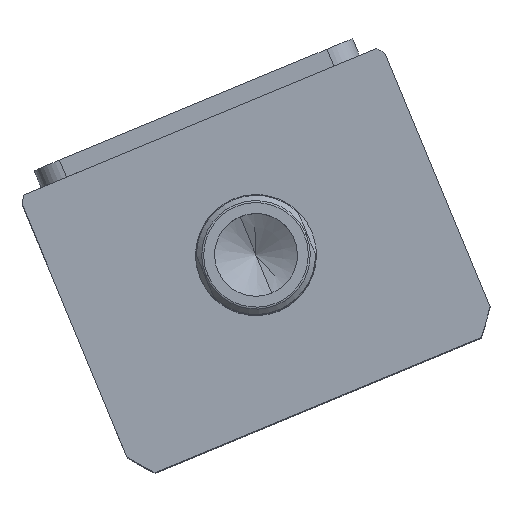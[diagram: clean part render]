
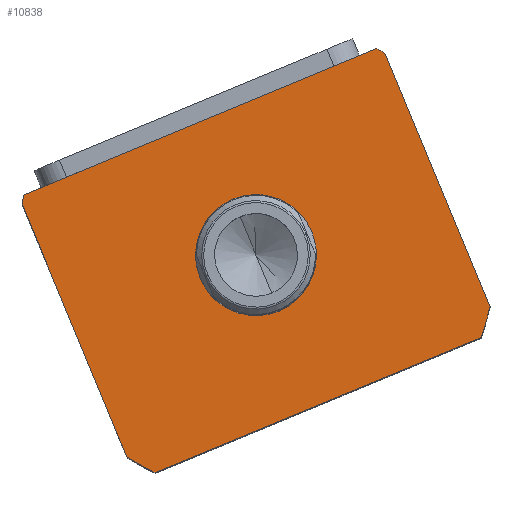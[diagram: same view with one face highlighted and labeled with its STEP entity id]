
A CAD part, top view. The second image highlights one B-rep face of the part: STEP entity #10838.
In plain terms, the highlighted planar face has unit normal (0, 0, 1) as drawn and (0, 0, -1) by its records, which use the part's own axes.
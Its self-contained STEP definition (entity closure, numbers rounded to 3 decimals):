
#216 = CARTESIAN_POINT ( 'NONE',  ( 0., 2.5, 0. ) ) ;
#275 = CARTESIAN_POINT ( 'NONE',  ( -57., 42.265, 0. ) ) ;
#530 = EDGE_CURVE ( 'NONE', #16409, #3230, #3903, .T. ) ;
#600 = DIRECTION ( 'NONE',  ( 1., 0., 0. ) ) ;
#868 = DIRECTION ( 'NONE',  ( 1., 0., 0. ) ) ;
#869 = CARTESIAN_POINT ( 'NONE',  ( 0., 2.5, 0. ) ) ;
#1036 = EDGE_CURVE ( 'NONE', #6912, #4283, #5954, .T. ) ;
#1552 = LINE ( 'NONE', #15355, #16697 ) ;
#1745 = ORIENTED_EDGE ( 'NONE', *, *, #7403, .F. ) ;
#1816 = CIRCLE ( 'NONE', #11437, 69.5 ) ;
#1909 = VERTEX_POINT ( 'NONE', #275 ) ;
#2118 = CARTESIAN_POINT ( 'NONE',  ( 51.198, -44.5, 0. ) ) ;
#2342 = DIRECTION ( 'NONE',  ( 1., 0., 0. ) ) ;
#2649 = ORIENTED_EDGE ( 'NONE', *, *, #11339, .F. ) ;
#2682 = ORIENTED_EDGE ( 'NONE', *, *, #7670, .T. ) ;
#2773 = VECTOR ( 'NONE', #18220, 1000. ) ;
#3165 = DIRECTION ( 'NONE',  ( 0., 0., 1. ) ) ;
#3230 = VERTEX_POINT ( 'NONE', #18999 ) ;
#3721 = EDGE_CURVE ( 'NONE', #4283, #4830, #1552, .T. ) ;
#3893 = CARTESIAN_POINT ( 'NONE',  ( 57., 42.265, 0. ) ) ;
#3903 = CIRCLE ( 'NONE', #15876, 17.5 ) ;
#4283 = VERTEX_POINT ( 'NONE', #5910 ) ;
#4614 = ORIENTED_EDGE ( 'NONE', *, *, #1036, .F. ) ;
#4713 = CARTESIAN_POINT ( 'NONE',  ( 57., 44.5, 0. ) ) ;
#4830 = VERTEX_POINT ( 'NONE', #5348 ) ;
#5107 = CARTESIAN_POINT ( 'NONE',  ( -17.5, 2.5, 0. ) ) ;
#5348 = CARTESIAN_POINT ( 'NONE',  ( -55.374, 44.5, 0. ) ) ;
#5910 = CARTESIAN_POINT ( 'NONE',  ( 55.374, 44.5, 0. ) ) ;
#5954 = CIRCLE ( 'NONE', #15513, 69.5 ) ;
#6056 = DIRECTION ( 'NONE',  ( 0., 0., 1. ) ) ;
#6689 = LINE ( 'NONE', #15222, #2773 ) ;
#6693 = AXIS2_PLACEMENT_3D ( 'NONE', #15792, #7013, #17260 ) ;
#6767 = VECTOR ( 'NONE', #17913, 1000. ) ;
#6891 = ORIENTED_EDGE ( 'NONE', *, *, #8187, .F. ) ;
#6912 = VERTEX_POINT ( 'NONE', #3893 ) ;
#7013 = DIRECTION ( 'NONE',  ( 0., 0., 1. ) ) ;
#7015 = ORIENTED_EDGE ( 'NONE', *, *, #15666, .F. ) ;
#7150 = ORIENTED_EDGE ( 'NONE', *, *, #7295, .F. ) ;
#7207 = VERTEX_POINT ( 'NONE', #13250 ) ;
#7295 = EDGE_CURVE ( 'NONE', #4830, #1909, #10194, .T. ) ;
#7403 = EDGE_CURVE ( 'NONE', #17270, #6912, #17537, .T. ) ;
#7670 = EDGE_CURVE ( 'NONE', #3230, #16409, #12279, .T. ) ;
#7773 = CARTESIAN_POINT ( 'NONE',  ( 0., 2.5, 0. ) ) ;
#7826 = EDGE_LOOP ( 'NONE', ( #4614, #1745, #2649, #6891, #11077, #7015, #7150, #18202 ) ) ;
#8187 = EDGE_CURVE ( 'NONE', #13399, #18681, #18212, .T. ) ;
#8371 = DIRECTION ( 'NONE',  ( 0., 0., 1. ) ) ;
#9101 = FACE_OUTER_BOUND ( 'NONE', #7826, .T. ) ;
#9241 = DIRECTION ( 'NONE',  ( 1., 0., 0. ) ) ;
#9384 = CARTESIAN_POINT ( 'NONE',  ( -57., -44.5, 0. ) ) ;
#9522 = DIRECTION ( 'NONE',  ( -1., 0., 0. ) ) ;
#9554 = AXIS2_PLACEMENT_3D ( 'NONE', #7773, #18016, #9241 ) ;
#10194 = CIRCLE ( 'NONE', #15931, 69.5 ) ;
#10425 = VECTOR ( 'NONE', #600, 1000. ) ;
#10838 = ADVANCED_FACE ( 'NONE', ( #13922, #9101 ), #17132, .F. ) ;
#11077 = ORIENTED_EDGE ( 'NONE', *, *, #18815, .F. ) ;
#11131 = DIRECTION ( 'NONE',  ( 0., 0., 1. ) ) ;
#11132 = DIRECTION ( 'NONE',  ( 0., 0., 1. ) ) ;
#11339 = EDGE_CURVE ( 'NONE', #18681, #17270, #15043, .T. ) ;
#11437 = AXIS2_PLACEMENT_3D ( 'NONE', #869, #11132, #2342 ) ;
#12092 = CARTESIAN_POINT ( 'NONE',  ( 57., -37.265, 0. ) ) ;
#12279 = CIRCLE ( 'NONE', #6693, 17.5 ) ;
#13250 = CARTESIAN_POINT ( 'NONE',  ( -57., -37.265, 0. ) ) ;
#13399 = VERTEX_POINT ( 'NONE', #17428 ) ;
#13922 = FACE_BOUND ( 'NONE', #17109, .T. ) ;
#14836 = DIRECTION ( 'NONE',  ( 1., 0., 0. ) ) ;
#14842 = CARTESIAN_POINT ( 'NONE',  ( 0., 2.5, 0. ) ) ;
#15043 = CIRCLE ( 'NONE', #9554, 69.5 ) ;
#15222 = CARTESIAN_POINT ( 'NONE',  ( -57., 44.5, 0. ) ) ;
#15355 = CARTESIAN_POINT ( 'NONE',  ( -57., 44.5, 0. ) ) ;
#15513 = AXIS2_PLACEMENT_3D ( 'NONE', #18418, #11131, #868 ) ;
#15666 = EDGE_CURVE ( 'NONE', #1909, #7207, #6689, .T. ) ;
#15792 = CARTESIAN_POINT ( 'NONE',  ( 0., 2.5, 0. ) ) ;
#15876 = AXIS2_PLACEMENT_3D ( 'NONE', #216, #3165, #14836 ) ;
#15931 = AXIS2_PLACEMENT_3D ( 'NONE', #14842, #6056, #16313 ) ;
#16313 = DIRECTION ( 'NONE',  ( 1., 0., 0. ) ) ;
#16409 = VERTEX_POINT ( 'NONE', #5107 ) ;
#16697 = VECTOR ( 'NONE', #9522, 1000. ) ;
#16771 = ORIENTED_EDGE ( 'NONE', *, *, #530, .T. ) ;
#16796 = AXIS2_PLACEMENT_3D ( 'NONE', #17062, #8371, #18594 ) ;
#17062 = CARTESIAN_POINT ( 'NONE',  ( 0., 0., 0. ) ) ;
#17109 = EDGE_LOOP ( 'NONE', ( #2682, #16771 ) ) ;
#17132 = PLANE ( 'NONE',  #16796 ) ;
#17260 = DIRECTION ( 'NONE',  ( 1., 0., 0. ) ) ;
#17270 = VERTEX_POINT ( 'NONE', #12092 ) ;
#17428 = CARTESIAN_POINT ( 'NONE',  ( -51.198, -44.5, 0. ) ) ;
#17537 = LINE ( 'NONE', #4713, #6767 ) ;
#17913 = DIRECTION ( 'NONE',  ( 0., 1., 0. ) ) ;
#18016 = DIRECTION ( 'NONE',  ( 0., 0., 1. ) ) ;
#18202 = ORIENTED_EDGE ( 'NONE', *, *, #3721, .F. ) ;
#18212 = LINE ( 'NONE', #9384, #10425 ) ;
#18220 = DIRECTION ( 'NONE',  ( 0., -1., 0. ) ) ;
#18418 = CARTESIAN_POINT ( 'NONE',  ( 0., 2.5, 0. ) ) ;
#18594 = DIRECTION ( 'NONE',  ( 1., 0., 0. ) ) ;
#18681 = VERTEX_POINT ( 'NONE', #2118 ) ;
#18815 = EDGE_CURVE ( 'NONE', #7207, #13399, #1816, .T. ) ;
#18999 = CARTESIAN_POINT ( 'NONE',  ( 17.5, 2.5, 0. ) ) ;
